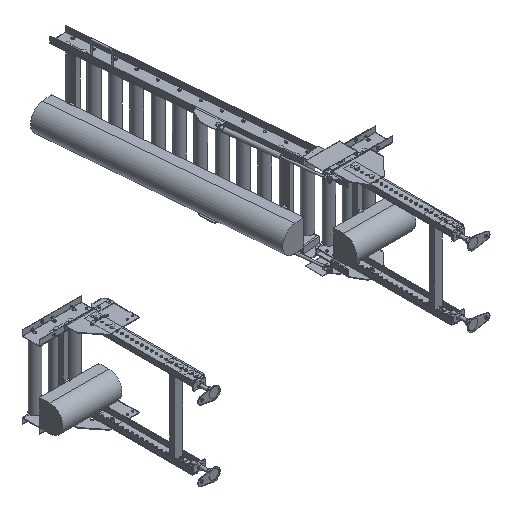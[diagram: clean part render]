
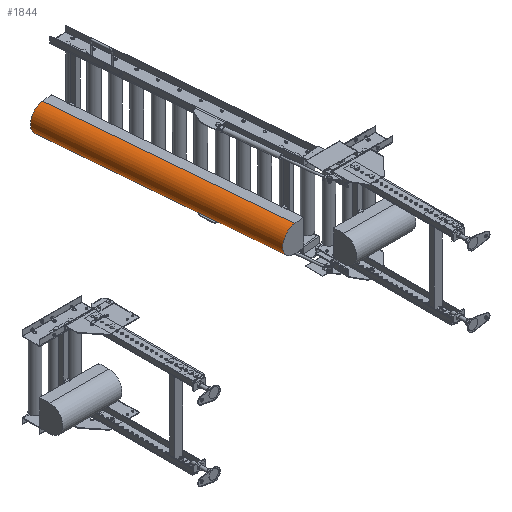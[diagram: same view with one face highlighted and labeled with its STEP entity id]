
A CAD part, isometric view. The second image highlights one B-rep face of the part: STEP entity #1844.
In plain terms, the highlighted cylindrical face has radius 66.89 mm (diameter 133.78 mm), a partial arc.
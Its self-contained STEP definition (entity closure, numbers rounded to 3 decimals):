
#1844=ADVANCED_FACE('',(#12944),#12943,.T.);
#12943=CYLINDRICAL_SURFACE('',#34794,66.89);
#12944=FACE_OUTER_BOUND('',#34795,.T.);
#34791=CARTESIAN_POINT('',(-71.797,-158.438,-112.61));
#34792=DIRECTION('',(0.087,-0.996,0.));
#34793=DIRECTION('',(0.,0.,-1.));
#34794=AXIS2_PLACEMENT_3D('',#34791,#34792,#34793);
#34795=EDGE_LOOP('',(#48775,#48776,#48777,#48778));
#48775=ORIENTED_EDGE('',*,*,#59481,.F.);
#48776=ORIENTED_EDGE('',*,*,#59503,.T.);
#48777=ORIENTED_EDGE('',*,*,#59501,.T.);
#48778=ORIENTED_EDGE('',*,*,#59477,.F.);
#59477=EDGE_CURVE('',#80095,#80102,#80103,.T.);
#59481=EDGE_CURVE('',#80122,#80095,#80129,.T.);
#59501=EDGE_CURVE('',#80267,#80102,#80268,.T.);
#59503=EDGE_CURVE('',#80122,#80267,#80280,.T.);
#80095=VERTEX_POINT('',#117033);
#80102=VERTEX_POINT('',#117037);
#80103=CIRCLE('',#117041,66.89);
#80122=VERTEX_POINT('',#117049);
#80129=LINE('',#117053,#117054);
#80267=VERTEX_POINT('',#117131);
#80268=LINE('',#117132,#117133);
#80280=CIRCLE('',#117141,66.89);
#117033=CARTESIAN_POINT('',(-190.216,1196.047,-179.5));
#117037=CARTESIAN_POINT('',(-190.216,1196.047,-45.72));
#117038=CARTESIAN_POINT('',(-190.216,1196.047,-112.61));
#117039=DIRECTION('',(-0.087,0.996,0.));
#117040=DIRECTION('',(0.,0.,1.));
#117041=AXIS2_PLACEMENT_3D('',#117038,#117039,#117040);
#117049=CARTESIAN_POINT('',(-87.269,18.539,-179.5));
#117053=CARTESIAN_POINT('',(-87.269,18.539,-179.5));
#117054=VECTOR('',#117055,1182.);
#117055=DIRECTION('',(-0.087,0.996,0.));
#117131=CARTESIAN_POINT('',(-87.269,18.539,-45.72));
#117132=CARTESIAN_POINT('',(-87.269,18.539,-45.72));
#117133=VECTOR('',#117134,1182.);
#117134=DIRECTION('',(-0.087,0.996,0.));
#117138=CARTESIAN_POINT('',(-87.269,18.539,-112.61));
#117139=DIRECTION('',(-0.087,0.996,0.));
#117140=DIRECTION('',(0.,0.,1.));
#117141=AXIS2_PLACEMENT_3D('',#117138,#117139,#117140);
